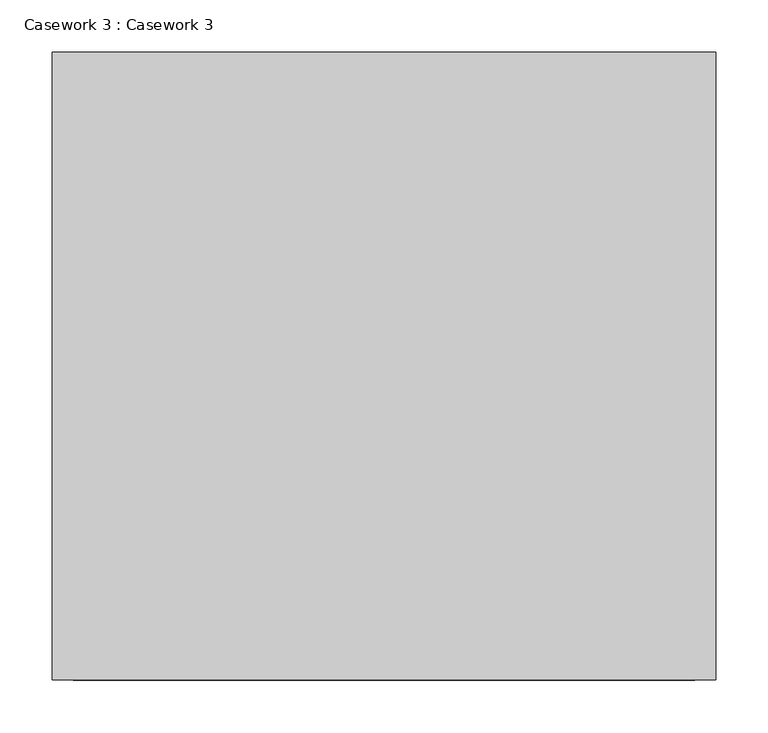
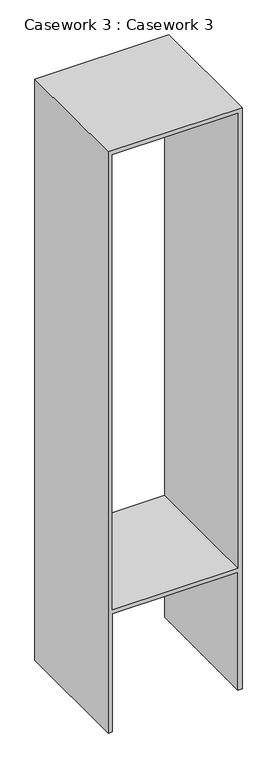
"""IFC4 building model written with IfcOpenShell, lengths in millimetres: furniture geometry, Casework 3 : Casework 3."""

from ifc_helpers import new_model, si_unit, frame, origin, place, context, project, spatial, polyline, outline, extrude, source, transform, mapped, element, save


def casework_3_casework_3_17770feb(model_context):
    return source(origin(), model_context, "Body", "SweptSolid", [
        extrude(outline(polyline([(6600.0, 3556.5234079), (6600.0, 3576.5234079), (7190.0, 3576.5234079), (7190.0, 4170.2734079), (6600.0, 4170.2734079), (6600.0, 4190.2734079), (9507.0, 4190.2734079), (9507.0, 3556.5234079), (6600.0, 3556.5234079)]), holes=[polyline([(7210.0, 3576.5234079), (9487.0, 3576.5234079), (9487.0, 4170.2734079), (7210.0, 4170.2734079), (7210.0, 3576.5234079)])]), frame((0.0, 8161.6620874, 0.0), z_axis=(0.0, 1.0, 0.0), x_axis=(0.0, 0.0, 1.0)), (0.0, 0.0, 1.0), 600.0),
    ])


if __name__ == "__main__":
    model = new_model("IFC4")
    model_context = context("Model", 3, world=origin())
    ifc_project = project(units=[si_unit("LENGTHUNIT", "METRE", prefix="MILLI")], contexts=[model_context])
    site = spatial("IfcSite", under=ifc_project)
    building = spatial("IfcBuilding", under=site)
    placement = place(None, origin())
    casework_3_casework_3_shape = casework_3_casework_3_17770feb(model_context)
    element("IfcFurniture", 1, ObjectType="Casework 3 : Casework 3", at=placement, inside=building, context=model_context, shape_type="MappedRepresentation", body=[
        mapped(casework_3_casework_3_shape, transform((0.0, 0.0, 0.0), x_axis=(1.0, 0.0, 0.0), y_axis=(0.0, 1.0, 0.0), z_axis=(0.0, 0.0, 1.0))),
    ])
    save(model, "model.ifc")
